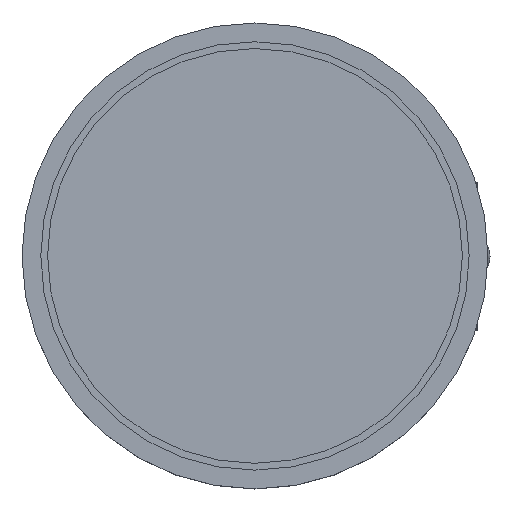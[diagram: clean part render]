
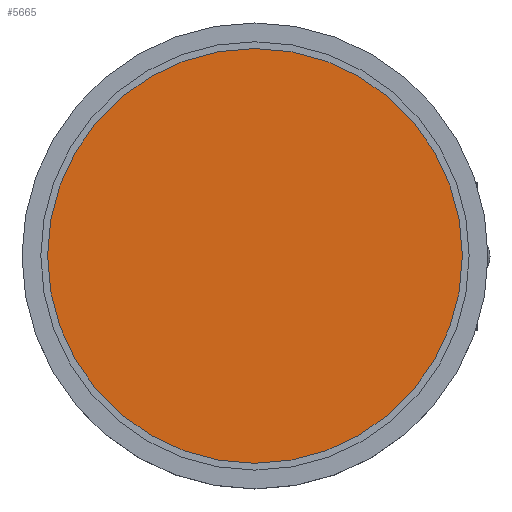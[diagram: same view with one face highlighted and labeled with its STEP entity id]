
A CAD part, top view. The second image highlights one B-rep face of the part: STEP entity #5665.
In plain terms, the highlighted planar face has unit normal (0, 0, 1).
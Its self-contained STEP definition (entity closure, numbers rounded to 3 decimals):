
#284=PLANE('',#6221);
#568=FACE_OUTER_BOUND('',#869,.T.);
#869=EDGE_LOOP('',(#4985));
#1132=CIRCLE('',#6220,28.04);
#2589=VERTEX_POINT('',#10478);
#3390=EDGE_CURVE('',#2589,#2589,#1132,.T.);
#4985=ORIENTED_EDGE('',*,*,#3390,.T.);
#5665=ADVANCED_FACE('',(#568),#284,.T.);
#6220=AXIS2_PLACEMENT_3D('',#10479,#7719,#7720);
#6221=AXIS2_PLACEMENT_3D('',#10480,#7721,#7722);
#7719=DIRECTION('center_axis',(0.,0.,
1.));
#7720=DIRECTION('ref_axis',(1.,0.,0.));
#7721=DIRECTION('center_axis',(0.,0.,
1.));
#7722=DIRECTION('ref_axis',(0.,-1.,0.));
#10478=CARTESIAN_POINT('',(-28.04,0.,0.));
#10479=CARTESIAN_POINT('Origin',(0.,0.,0.));
#10480=CARTESIAN_POINT('Origin',(0.,0.,0.));
